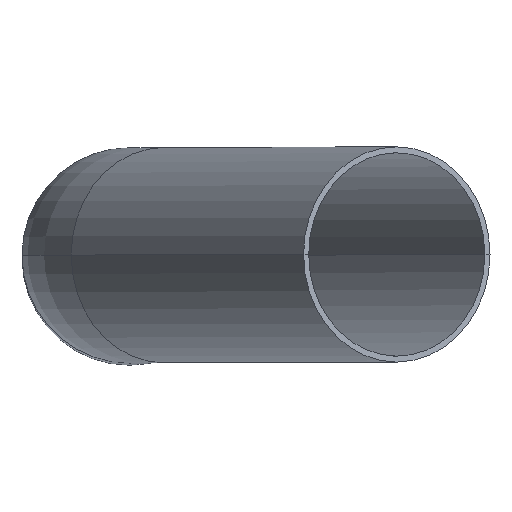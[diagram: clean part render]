
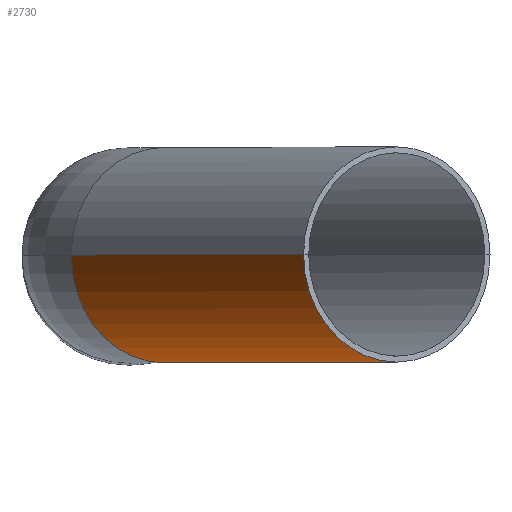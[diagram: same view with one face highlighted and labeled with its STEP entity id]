
A CAD part, top view. The second image highlights one B-rep face of the part: STEP entity #2730.
In plain terms, the highlighted cylindrical face has radius 27 mm (diameter 54 mm), a partial arc.
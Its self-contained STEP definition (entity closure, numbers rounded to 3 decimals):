
#1840=CARTESIAN_POINT('',(82.808,48.566,327.583));
#1850=VERTEX_POINT('',#1840);
#1940=CARTESIAN_POINT('',(36.043,48.566,354.583));
#1950=VERTEX_POINT('',#1940);
#1980=CARTESIAN_POINT('',(59.426,48.566,341.083));
#1990=DIRECTION('',(0.5,0.,0.866));
#2000=DIRECTION('',(0.866,0.,-0.5));
#2010=AXIS2_PLACEMENT_3D('',#1980,#1990,#2000);
#2020=CIRCLE('',#2010,27.);
#2030=EDGE_CURVE('',#1950,#1850,#2020,.T.);
#2360=CARTESIAN_POINT('',(117.717,48.566,442.047));
#2370=DIRECTION('',(0.5,0.,0.866));
#2380=DIRECTION('',(0.866,0.,-0.5));
#2390=AXIS2_PLACEMENT_3D('',#2360,#2370,#2380);
#2400=CIRCLE('',#2390,27.);
#2410=CARTESIAN_POINT('',(141.1,48.566,428.547));
#2420=VERTEX_POINT('',#2410);
#2430=CARTESIAN_POINT('',(94.335,48.566,455.547));
#2440=VERTEX_POINT('',#2430);
#2470=EDGE_CURVE('',#2440,#2420,#2400,.T.);
#2520=CARTESIAN_POINT('',(59.426,48.566,341.083));
#2530=DIRECTION('',(0.5,0.,0.866));
#2540=DIRECTION('',(0.866,0.,-0.5));
#2550=AXIS2_PLACEMENT_3D('',#2520,#2530,#2540);
#2560=CYLINDRICAL_SURFACE('',#2550,27.);
#2570=CARTESIAN_POINT('',(82.808,48.566,327.583));
#2580=DIRECTION('',(0.5,0.,0.866));
#2590=VECTOR('',#2580,1.);
#2600=LINE('',#2570,#2590);
#2610=EDGE_CURVE('',#1850,#2420,#2600,.T.);
#2620=ORIENTED_EDGE('',*,*,#2610,.T.);
#2630=ORIENTED_EDGE('',*,*,#2030,.T.);
#2640=CARTESIAN_POINT('',(36.043,48.566,354.583));
#2650=DIRECTION('',(0.5,0.,0.866));
#2660=VECTOR('',#2650,1.);
#2670=LINE('',#2640,#2660);
#2680=EDGE_CURVE('',#1950,#2440,#2670,.T.);
#2690=ORIENTED_EDGE('',*,*,#2680,.F.);
#2700=ORIENTED_EDGE('',*,*,#2470,.F.);
#2710=EDGE_LOOP('',(#2700,#2690,#2630,#2620));
#2720=FACE_OUTER_BOUND('',#2710,.T.);
#2730=ADVANCED_FACE('',(#2720),#2560,.T.);
